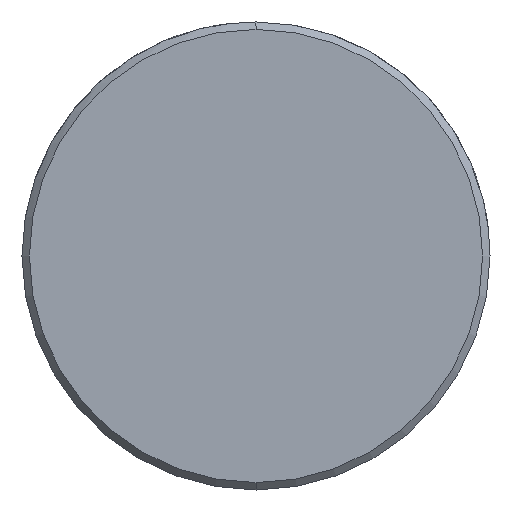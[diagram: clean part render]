
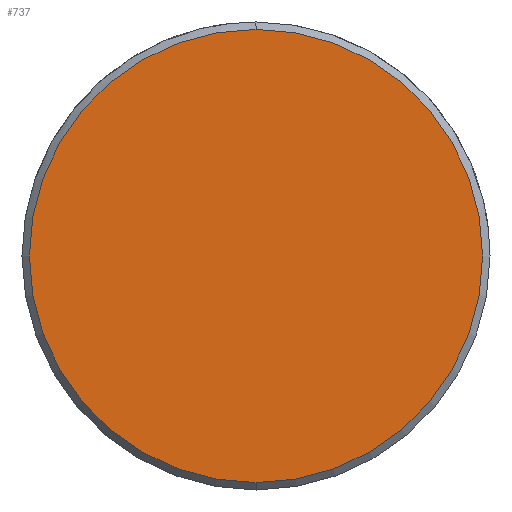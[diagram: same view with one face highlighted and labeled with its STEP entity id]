
A CAD part, left-side view. The second image highlights one B-rep face of the part: STEP entity #737.
In plain terms, the highlighted planar face has unit normal (-1, 0, 0).
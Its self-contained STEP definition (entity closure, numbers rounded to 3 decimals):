
#669=CARTESIAN_POINT('Vertex',(0.,0.,-9.2)) ;
#672=CARTESIAN_POINT('Axis2P3D Location',(0.,0.,0.)) ;
#676=CARTESIAN_POINT('Vertex',(0.,9.2,0.)) ;
#679=CARTESIAN_POINT('Axis2P3D Location',(0.,0.,0.)) ;
#683=CARTESIAN_POINT('Vertex',(0.,0.,9.2)) ;
#705=CARTESIAN_POINT('Axis2P3D Location',(0.,0.,0.)) ;
#709=CARTESIAN_POINT('Vertex',(0.,-9.2,0.)) ;
#712=CARTESIAN_POINT('Axis2P3D Location',(0.,0.,0.)) ;
#726=CARTESIAN_POINT('Axis2P3D Location',(0.,0.,0.)) ;
#673=DIRECTION('Axis2P3D Direction',(1.,0.,-0.)) ;
#680=DIRECTION('Axis2P3D Direction',(1.,0.,-0.)) ;
#706=DIRECTION('Axis2P3D Direction',(1.,0.,-0.)) ;
#713=DIRECTION('Axis2P3D Direction',(1.,0.,-0.)) ;
#727=DIRECTION('Axis2P3D Direction',(1.,0.,-0.)) ;
#728=DIRECTION('Axis2P3D XDirection',(-0.,0.,-1.)) ;
#674=AXIS2_PLACEMENT_3D('Circle Axis2P3D',#672,#673,$) ;
#681=AXIS2_PLACEMENT_3D('Circle Axis2P3D',#679,#680,$) ;
#707=AXIS2_PLACEMENT_3D('Circle Axis2P3D',#705,#706,$) ;
#714=AXIS2_PLACEMENT_3D('Circle Axis2P3D',#712,#713,$) ;
#729=AXIS2_PLACEMENT_3D('Plane Axis2P3D',#726,#727,#728) ;
#732=ORIENTED_EDGE('',*,*,#678,.F.) ;
#733=ORIENTED_EDGE('',*,*,#716,.F.) ;
#734=ORIENTED_EDGE('',*,*,#711,.F.) ;
#735=ORIENTED_EDGE('',*,*,#685,.F.) ;
#737=ADVANCED_FACE('549-16X60',(#736),#730,.F.) ;
#675=CIRCLE('generated circle',#674,9.2) ;
#682=CIRCLE('generated circle',#681,9.2) ;
#708=CIRCLE('generated circle',#707,9.2) ;
#715=CIRCLE('generated circle',#714,9.2) ;
#678=EDGE_CURVE('',#670,#677,#675,.T.) ;
#685=EDGE_CURVE('',#677,#684,#682,.T.) ;
#711=EDGE_CURVE('',#684,#710,#708,.T.) ;
#716=EDGE_CURVE('',#710,#670,#715,.T.) ;
#731=EDGE_LOOP('',(#732,#733,#734,#735)) ;
#736=FACE_OUTER_BOUND('',#731,.T.) ;
#730=PLANE('Plane',#729) ;
#670=VERTEX_POINT('',#669) ;
#677=VERTEX_POINT('',#676) ;
#684=VERTEX_POINT('',#683) ;
#710=VERTEX_POINT('',#709) ;
